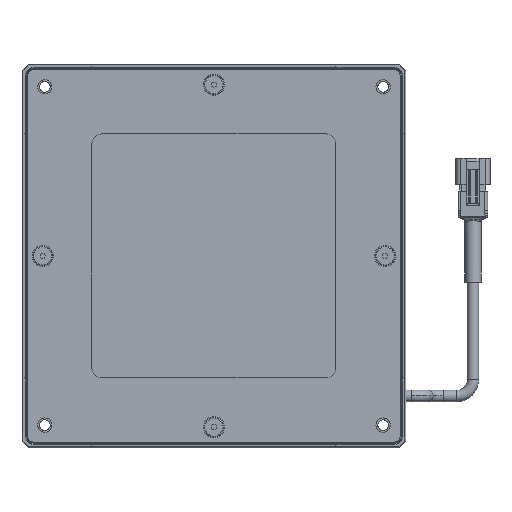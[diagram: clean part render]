
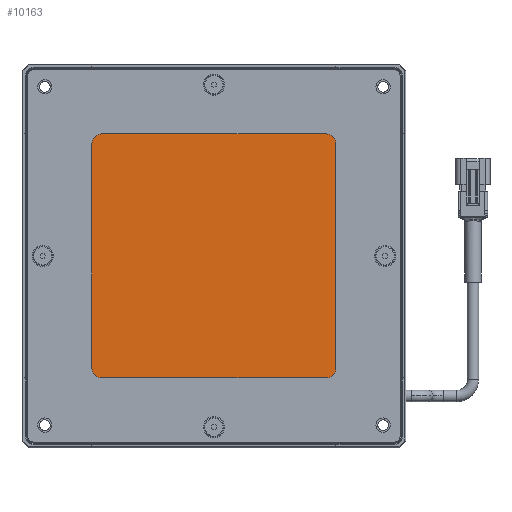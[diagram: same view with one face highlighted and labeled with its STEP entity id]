
A CAD part, top view. The second image highlights one B-rep face of the part: STEP entity #10163.
In plain terms, the highlighted planar face has unit normal (0, 0, 1).
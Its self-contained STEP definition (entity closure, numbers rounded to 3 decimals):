
#8 = EDGE_CURVE ( 'NONE', #5680, #5563, #7484, .T. ) ;
#969 = CARTESIAN_POINT ( 'NONE',  ( -40.5, 40.5, 7.15 ) ) ;
#1015 = LINE ( 'NONE', #15810, #5274 ) ;
#1369 = CARTESIAN_POINT ( 'NONE',  ( -40.5, 40.5, 7.15 ) ) ;
#2218 = VERTEX_POINT ( 'NONE', #1369 ) ;
#2572 = CARTESIAN_POINT ( 'NONE',  ( 40.5, 40.5, 7.15 ) ) ;
#2612 = EDGE_CURVE ( 'NONE', #10037, #2218, #17432, .T. ) ;
#2758 = PLANE ( 'NONE',  #17802 ) ;
#4728 = ORIENTED_EDGE ( 'NONE', *, *, #5041, .T. ) ;
#4929 = DIRECTION ( 'NONE',  ( 0., -1., 0. ) ) ;
#5041 = EDGE_CURVE ( 'NONE', #2218, #5680, #5080, .T. ) ;
#5080 = LINE ( 'NONE', #15001, #10526 ) ;
#5274 = VECTOR ( 'NONE', #9605, 1000. ) ;
#5563 = VERTEX_POINT ( 'NONE', #12455 ) ;
#5680 = VERTEX_POINT ( 'NONE', #15471 ) ;
#5722 = ORIENTED_EDGE ( 'NONE', *, *, #8, .T. ) ;
#5870 = VECTOR ( 'NONE', #8160, 1000. ) ;
#7484 = LINE ( 'NONE', #14421, #17438 ) ;
#8147 = ORIENTED_EDGE ( 'NONE', *, *, #18642, .T. ) ;
#8160 = DIRECTION ( 'NONE',  ( -1., 0., 0. ) ) ;
#8650 = DIRECTION ( 'NONE',  ( 0., 0., -1. ) ) ;
#8852 = DIRECTION ( 'NONE',  ( 1., 0., 0. ) ) ;
#9605 = DIRECTION ( 'NONE',  ( 0., 1., 0. ) ) ;
#10037 = VERTEX_POINT ( 'NONE', #2572 ) ;
#10163 = ADVANCED_FACE ( 'NONE', ( #10364 ), #2758, .F. ) ;
#10364 = FACE_OUTER_BOUND ( 'NONE', #13736, .T. ) ;
#10526 = VECTOR ( 'NONE', #4929, 1000. ) ;
#11525 = DIRECTION ( 'NONE',  ( -1., 0., 0. ) ) ;
#12455 = CARTESIAN_POINT ( 'NONE',  ( 40.5, -40.5, 7.15 ) ) ;
#13736 = EDGE_LOOP ( 'NONE', ( #4728, #5722, #8147, #17936 ) ) ;
#14355 = CARTESIAN_POINT ( 'NONE',  ( -40.5, 40.5, 7.15 ) ) ;
#14421 = CARTESIAN_POINT ( 'NONE',  ( -40.5, -40.5, 7.15 ) ) ;
#15001 = CARTESIAN_POINT ( 'NONE',  ( -40.5, -40.5, 7.15 ) ) ;
#15471 = CARTESIAN_POINT ( 'NONE',  ( -40.5, -40.5, 7.15 ) ) ;
#15810 = CARTESIAN_POINT ( 'NONE',  ( 40.5, -40.5, 7.15 ) ) ;
#17432 = LINE ( 'NONE', #969, #5870 ) ;
#17438 = VECTOR ( 'NONE', #8852, 1000. ) ;
#17802 = AXIS2_PLACEMENT_3D ( 'NONE', #14355, #8650, #11525 ) ;
#17936 = ORIENTED_EDGE ( 'NONE', *, *, #2612, .T. ) ;
#18642 = EDGE_CURVE ( 'NONE', #5563, #10037, #1015, .T. ) ;
